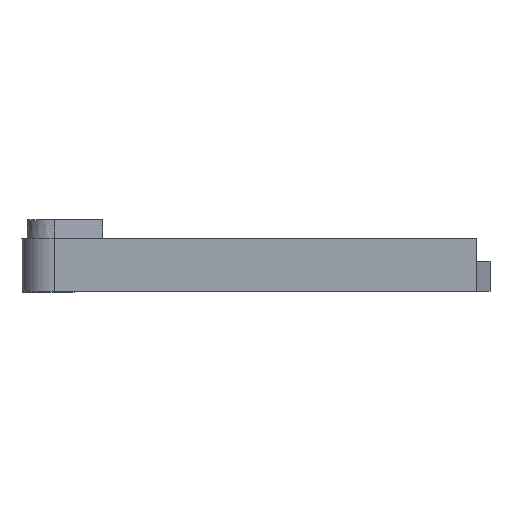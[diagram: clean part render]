
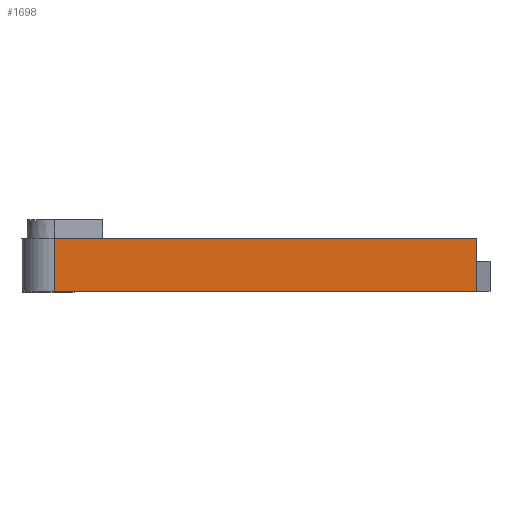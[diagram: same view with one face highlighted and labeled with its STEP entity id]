
A CAD part, top view. The second image highlights one B-rep face of the part: STEP entity #1698.
In plain terms, the highlighted planar face has unit normal (0, 0, 1).
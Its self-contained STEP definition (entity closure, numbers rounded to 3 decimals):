
#12 = CARTESIAN_POINT ( 'NONE',  ( 203., 253., 202. ) ) ;
#19 = VERTEX_POINT ( 'NONE', #3555 ) ;
#54 = CARTESIAN_POINT ( 'NONE',  ( -203., 253., 202. ) ) ;
#69 = AXIS2_PLACEMENT_3D ( 'NONE', #12, #1658, #627 ) ;
#95 = VERTEX_POINT ( 'NONE', #1779 ) ;
#114 = DIRECTION ( 'NONE',  ( 1., 0., 0. ) ) ;
#209 = CARTESIAN_POINT ( 'NONE',  ( 203., 227., 202. ) ) ;
#241 = ORIENTED_EDGE ( 'NONE', *, *, #3405, .T. ) ;
#291 = EDGE_LOOP ( 'NONE', ( #3294, #241, #4077, #3918 ) ) ;
#627 = DIRECTION ( 'NONE',  ( -1., 0., 0. ) ) ;
#693 = DIRECTION ( 'NONE',  ( 0., -1., 0. ) ) ;
#873 = CARTESIAN_POINT ( 'NONE',  ( -203., 227., 202. ) ) ;
#981 = PLANE ( 'NONE',  #69 ) ;
#1107 = EDGE_CURVE ( 'NONE', #95, #19, #1782, .T. ) ;
#1188 = CARTESIAN_POINT ( 'NONE',  ( -20.5, -15.241, 202. ) ) ;
#1484 = VECTOR ( 'NONE', #4221, 1000. ) ;
#1658 = DIRECTION ( 'NONE',  ( 0., 0., -1. ) ) ;
#1663 = EDGE_CURVE ( 'NONE', #95, #2911, #3969, .T. ) ;
#1682 = VECTOR ( 'NONE', #693, 1000. ) ;
#1698 = ADVANCED_FACE ( 'NONE', ( #2666 ), #981, .F. ) ;
#1710 = LINE ( 'NONE', #209, #3437 ) ;
#1779 = CARTESIAN_POINT ( 'NONE',  ( -203., 250., 202. ) ) ;
#1782 = LINE ( 'NONE', #3118, #3840 ) ;
#2219 = DIRECTION ( 'NONE',  ( -1., 0., 0. ) ) ;
#2666 = FACE_OUTER_BOUND ( 'NONE', #291, .T. ) ;
#2874 = EDGE_CURVE ( 'NONE', #3076, #2911, #1710, .T. ) ;
#2911 = VERTEX_POINT ( 'NONE', #873 ) ;
#3076 = VERTEX_POINT ( 'NONE', #3271 ) ;
#3118 = CARTESIAN_POINT ( 'NONE',  ( -203., 250., 202. ) ) ;
#3127 = LINE ( 'NONE', #1188, #1484 ) ;
#3271 = CARTESIAN_POINT ( 'NONE',  ( -20.5, 227., 202. ) ) ;
#3294 = ORIENTED_EDGE ( 'NONE', *, *, #2874, .F. ) ;
#3405 = EDGE_CURVE ( 'NONE', #3076, #19, #3127, .T. ) ;
#3437 = VECTOR ( 'NONE', #2219, 1000. ) ;
#3555 = CARTESIAN_POINT ( 'NONE',  ( -20.5, 250., 202. ) ) ;
#3840 = VECTOR ( 'NONE', #114, 1000. ) ;
#3918 = ORIENTED_EDGE ( 'NONE', *, *, #1663, .T. ) ;
#3969 = LINE ( 'NONE', #54, #1682 ) ;
#4077 = ORIENTED_EDGE ( 'NONE', *, *, #1107, .F. ) ;
#4221 = DIRECTION ( 'NONE',  ( 0., 1., 0. ) ) ;
